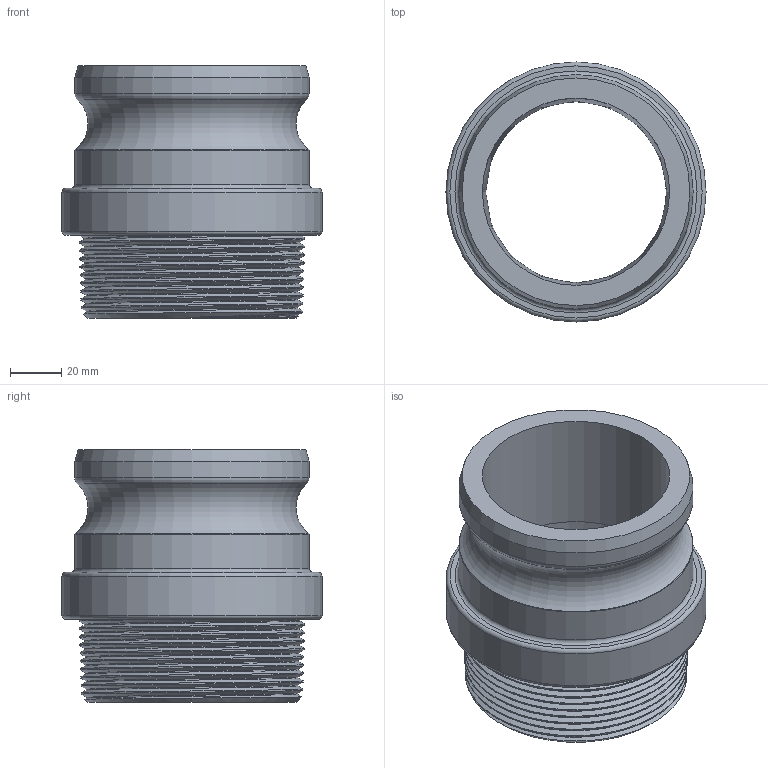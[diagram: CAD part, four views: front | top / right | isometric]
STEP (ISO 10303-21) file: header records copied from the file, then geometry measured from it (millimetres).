
FILE_DESCRIPTION(/* description */ ('Alibre Inc.'),/* implementation_level */ '2;1');
FILE_NAME(/* name */ 'export0',/* time_stamp */ '2016-01-17T17:07:42-05:00',/* author */ (''),/* organization */ (''),/* preprocessor_version */ 'ST-DEVELOPER v14',/* originating_system */ 'Alibre',/* authorisation */ '');
FILE_SCHEMA (('CONFIG_CONTROL_DESIGN'));
Length unit declared in the file: centimetre
Products named in the file (1): ID_1
Bounding box: 101.6 x 101.6 x 98.81 mm (x, y, z)
Volume: 220862.4 mm3; surface area: 63726.3 mm2
Topology: 1 solids, 1 shells, 42 faces, 106 edges, 68 vertices
Faces by surface type: cone 25, torus 5, bspline 4, cylinder 4, plane 4
Full cylindrical faces by diameter (mm): 73.203 x1, 91.542 x2, 101.6 x1
Entity records: 39078 total; most frequent: CARTESIAN_POINT 38140, ORIENTED_EDGE 186, DIRECTION 129, EDGE_CURVE 93, VERTEX_POINT 66, AXIS2_PLACEMENT_3D 58, EDGE_LOOP 57, FACE_BOUND 57
